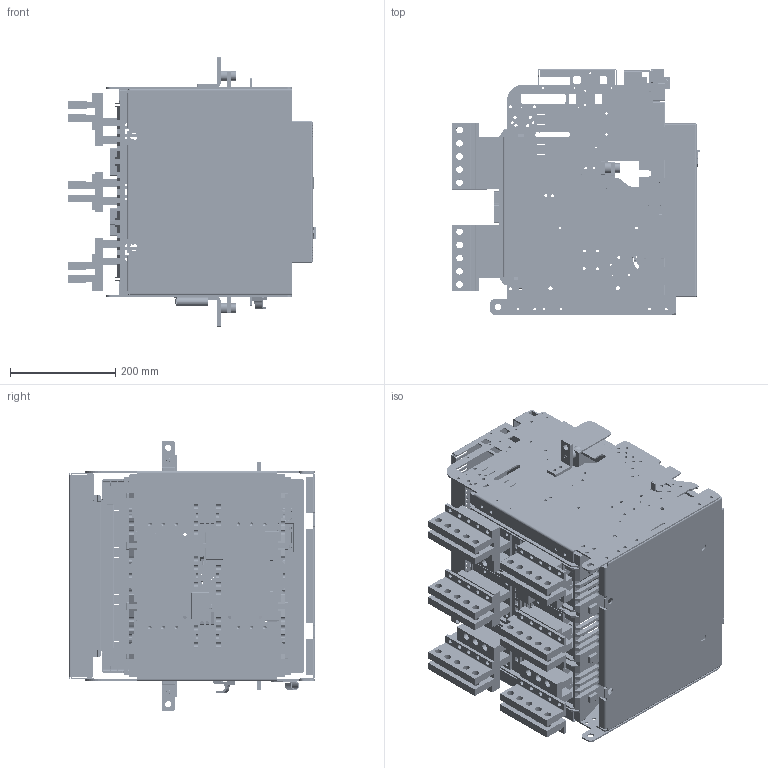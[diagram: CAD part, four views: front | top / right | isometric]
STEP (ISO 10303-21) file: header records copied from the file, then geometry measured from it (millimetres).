
FILE_DESCRIPTION((''),'2;1');
FILE_NAME('B403V_ASM','2017-01-31T',('HHI'),(''),'PRO/ENGINEER BY PARAMETRIC TECHNOLOGY CORPORATION, 2012453','PRO/ENGINEER BY PARAMETRIC TECHNOLOGY CORPORATION, 2012453','');
FILE_SCHEMA(('CONFIG_CONTROL_DESIGN'));
Products named in the file (39): MAIN_SC-DR-FRAME_L; MAIN_SC_DR_BASE_403; MAIN_SC-DR-FRAME_R; SC_CO_JACK_DFC_403; MAIN_SC-CONTROL_JACK-CRADLE; SC-MAIN-TERMINAL-MOLD-403; ISOLATING_CONDUCTOR_40V_L100; COMMON_CONDUCTOR_V; ISOLATING_CONDUCTOR_L100_ASM; ISOLATING_CONDUCTOR_40V_L75; ISOLATING_CONDUCTOR_L75_ASM; COMMON_S; COMMON_RN; JOINT_TERMINAL_40V; SC_CONTROL_JACK; SC_MAIN_FRONT_COVER40_2011_1215; SC_DR_DEVICE_COVER2; SC_DR_LOCK_PUSH_BUTTON; SC_MANUAL_POSITION_LOCK; SC-DR-INDICATOR_SAMPLE; DR_COVER_SAMPLE_ASM; MAIN_SC-OCR-COVER-U-DD-RE; MAIN_SC-OCR-PROTECTION-COVER-RE; MAIN_SC-OCR-LOWER-COVER-RE; OCR_COVER_SAMPLE_ASM; SC-CLOSE-BUTTON; SC-OPEN-BUTTON; N_CHARGE_HANDLE; COVER403_ASSY_ASM; U_ARC_SHIELD_403; SC-FIX-BLOCK-L; FIX_BODY_EXTRA; FIX_BLOCK_CRADLE; BOLT; FIX_BODY_ASM_L_ASM; SC-FIX-BLOCK-R; SC-FIX-BLOCK-SUP-R; FIX_BODY_ASM_R_ASM; B403V_ASM
Assembly tree (62 placements, depth 4):
  B403V_ASM
    MAIN_SC-DR-FRAME_L
    MAIN_SC_DR_BASE_403
    MAIN_SC-DR-FRAME_R
    SC_CO_JACK_DFC_403
    MAIN_SC-CONTROL_JACK-CRADLE
    SC-MAIN-TERMINAL-MOLD-403
    ISOLATING_CONDUCTOR_L100_ASM  x3
      ISOLATING_CONDUCTOR_40V_L100
      COMMON_CONDUCTOR_V
    ISOLATING_CONDUCTOR_L75_ASM  x3
      ISOLATING_CONDUCTOR_40V_L75
      COMMON_CONDUCTOR_V
    COMMON_S  x2
    COMMON_RN  x4
    JOINT_TERMINAL_40V  x12
    COVER403_ASSY_ASM
      SC_CONTROL_JACK
      SC_MAIN_FRONT_COVER40_2011_1215
      DR_COVER_SAMPLE_ASM
        SC_DR_DEVICE_COVER2
        SC_DR_LOCK_PUSH_BUTTON
        SC_MANUAL_POSITION_LOCK
        SC-DR-INDICATOR_SAMPLE
      OCR_COVER_SAMPLE_ASM
        MAIN_SC-OCR-COVER-U-DD-RE
        MAIN_SC-OCR-PROTECTION-COVER-RE
        MAIN_SC-OCR-LOWER-COVER-RE
      SC-CLOSE-BUTTON
      SC-OPEN-BUTTON
      N_CHARGE_HANDLE
    U_ARC_SHIELD_403
    FIX_BODY_ASM_L_ASM
      SC-FIX-BLOCK-L
      FIX_BODY_EXTRA
      FIX_BLOCK_CRADLE
      BOLT
    FIX_BODY_ASM_R_ASM
      SC-FIX-BLOCK-R
      SC-FIX-BLOCK-SUP-R
      FIX_BLOCK_CRADLE
      BOLT
Bounding box: 472.03 x 466.35 x 511 mm (x, y, z)
Volume: 7844924.4 mm3; surface area: 3891761.8 mm2
Topology: 65 solids, 67 shells, 15251 faces, 44328 edges, 28932 vertices
Faces by surface type: plane 11396, cylinder 3273, extrusion 181, torus 172, cone 109, bspline 62, sphere 58
Entity records: 469340 total; most frequent: CARTESIAN_POINT 91196, ORIENTED_EDGE 81938, DIRECTION 73327, EDGE_CURVE 40969, VECTOR 35255, LINE 35074, VERTEX_POINT 26765, AXIS2_PLACEMENT_3D 19036
